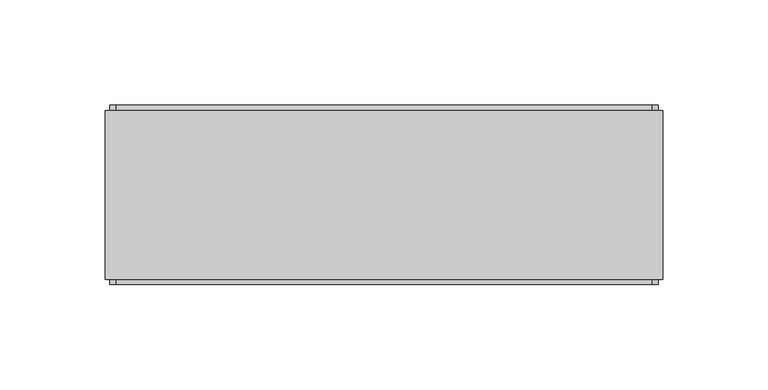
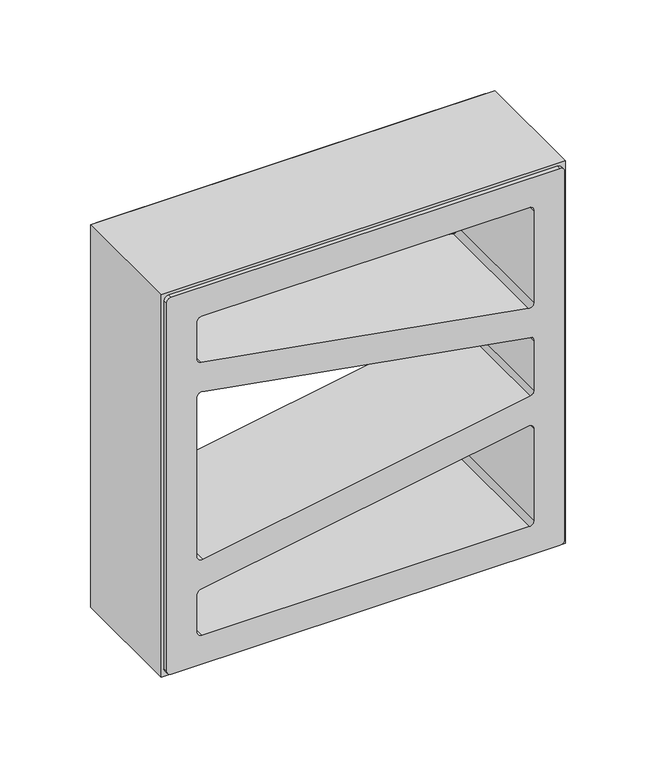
"""IFC4 building model written with IfcOpenShell, lengths in millimetres: proxy geometry, PORTOBELLO - STUDIO CRAFT 3 26X26 (COBOGO) : STUDIO CRAFT 3."""

from ifc_helpers import new_model, si_unit, point, frame, frame_2d, origin, place, context, project, spatial, polyline, circle_curve, trimmed, segment, composite_curve, outline, extrude, source, transform, mapped, element, save


def generic_models_dbe83256(model_context):
    return source(origin(), model_context, "Body", "SweptSolid", [
        extrude(outline(composite_curve([segment(polyline([(262.0, 127.0), (262.0, -127.0)]), True, "CONTINUOUS"), segment(trimmed(circle_curve(frame_2d((259.0, -127.0)), 3.0), [point((262.0, -127.0))], [point((259.0, -130.0))], False, "CARTESIAN"), True, "CONTINUOUS"), segment(polyline([(259.0, -130.0), (5.0, -130.0)]), True, "CONTINUOUS"), segment(trimmed(circle_curve(frame_2d((5.0, -127.0)), 3.0), [point((5.0, -130.0))], [point((2.0, -127.0))], False, "CARTESIAN"), True, "CONTINUOUS"), segment(polyline([(2.0, -127.0), (2.0, 127.0)]), True, "CONTINUOUS"), segment(trimmed(circle_curve(frame_2d((5.0, 127.0)), 3.0), [point((2.0, 127.0))], [point((5.0, 130.0))], False, "CARTESIAN"), True, "CONTINUOUS"), segment(polyline([(5.0, 130.0), (259.0, 130.0)]), True, "CONTINUOUS"), segment(trimmed(circle_curve(frame_2d((259.0, 127.0)), 3.0), [point((259.0, 130.0))], [point((262.0, 127.0))], False, "CARTESIAN"), True, "CONTINUOUS")], self_intersect=False), holes=[composite_curve([segment(polyline([(213.3092346, -110.0), (239.0, -110.0)]), True, "CONTINUOUS"), segment(trimmed(circle_curve(frame_2d((239.0, -107.0)), 3.0), [point((239.0, -110.0))], [point((242.0, -107.0))], True, "CARTESIAN"), True, "CONTINUOUS"), segment(polyline([(242.0, -107.0), (242.0, 107.0)]), True, "CONTINUOUS"), segment(trimmed(circle_curve(frame_2d((239.0, 107.0)), 3.0), [point((242.0, 107.0))], [point((239.0, 110.0))], True, "CARTESIAN"), True, "CONTINUOUS"), segment(polyline([(239.0, 110.0), (175.5752608, 110.0)]), True, "CONTINUOUS"), segment(trimmed(circle_curve(frame_2d((175.5752608, 107.0)), 3.0), [point((175.5752608, 110.0))], [point((172.6208375, 106.4790555))], True, "CARTESIAN"), True, "CONTINUOUS"), segment(polyline([(172.6208375, 106.4790555), (210.3548114, -107.5209445)]), True, "CONTINUOUS"), segment(trimmed(circle_curve(frame_2d((213.3092346, -107.0)), 3.0), [point((210.3548114, -107.5209445))], [point((213.3092346, -110.0))], True, "CARTESIAN"), True, "CONTINUOUS")], self_intersect=False), composite_curve([segment(polyline([(88.4247392, 110.0), (25.0, 110.0)]), True, "CONTINUOUS"), segment(trimmed(circle_curve(frame_2d((25.0, 107.0)), 3.0), [point((25.0, 110.0))], [point((22.0, 107.0))], True, "CARTESIAN"), True, "CONTINUOUS"), segment(polyline([(22.0, 107.0), (22.0, -107.0)]), True, "CONTINUOUS"), segment(trimmed(circle_curve(frame_2d((25.0, -107.0)), 3.0), [point((22.0, -107.0))], [point((25.0, -110.0))], True, "CARTESIAN"), True, "CONTINUOUS"), segment(polyline([(25.0, -110.0), (50.6907654, -110.0)]), True, "CONTINUOUS"), segment(trimmed(circle_curve(frame_2d((50.6907654, -107.0)), 3.0), [point((50.6907654, -110.0))], [point((53.6451886, -107.5209445))], True, "CARTESIAN"), True, "CONTINUOUS"), segment(polyline([(53.6451886, -107.5209445), (91.3791625, 106.4790555)]), True, "CONTINUOUS"), segment(trimmed(circle_curve(frame_2d((88.4247392, 107.0)), 3.0), [point((91.3791625, 106.4790555))], [point((88.4247392, 110.0))], True, "CARTESIAN"), True, "CONTINUOUS")], self_intersect=False), composite_curve([segment(trimmed(circle_curve(frame_2d((77.0918573, -107.0)), 3.0), [point((74.137434, -106.4790555))], [point((77.0918573, -110.0))], True, "CARTESIAN"), True, "CONTINUOUS"), segment(polyline([(77.0918573, -110.0), (186.9081427, -110.0)]), True, "CONTINUOUS"), segment(trimmed(circle_curve(frame_2d((186.9081427, -107.0)), 3.0), [point((186.9081427, -110.0))], [point((189.862566, -106.4790555))], True, "CARTESIAN"), True, "CONTINUOUS"), segment(polyline([(189.862566, -106.4790555), (152.1285921, 107.5209445)]), True, "CONTINUOUS"), segment(trimmed(circle_curve(frame_2d((149.1741689, 107.0)), 3.0), [point((152.1285921, 107.5209445))], [point((149.1741689, 110.0))], True, "CARTESIAN"), True, "CONTINUOUS"), segment(polyline([(149.1741689, 110.0), (114.8258311, 110.0)]), True, "CONTINUOUS"), segment(trimmed(circle_curve(frame_2d((114.8258311, 107.0)), 3.0), [point((114.8258311, 110.0))], [point((111.8714079, 107.5209445))], True, "CARTESIAN"), True, "CONTINUOUS"), segment(polyline([(111.8714079, 107.5209445), (74.137434, -106.4790555)]), True, "CONTINUOUS")], self_intersect=False)]), frame((0.0, -42.5, 0.0), z_axis=(0.0, 1.0, 0.0), x_axis=(0.0, 0.0, 1.0)), (0.0, 0.0, 1.0), 85.0),
        extrude(outline(polyline([(264.0, -132.0), (0.0, -132.0), (0.0, 132.0), (264.0, 132.0), (264.0, -132.0)]), holes=[composite_curve([segment(trimmed(circle_curve(frame_2d((5.0, -127.0)), 3.0), [point((2.0, -127.0))], [point((5.0, -130.0))], True, "CARTESIAN"), True, "CONTINUOUS"), segment(polyline([(5.0, -130.0), (259.0, -130.0)]), True, "CONTINUOUS"), segment(trimmed(circle_curve(frame_2d((259.0, -127.0)), 3.0), [point((259.0, -130.0))], [point((262.0, -127.0))], True, "CARTESIAN"), True, "CONTINUOUS"), segment(polyline([(262.0, -127.0), (262.0, 127.0)]), True, "CONTINUOUS"), segment(trimmed(circle_curve(frame_2d((259.0, 127.0)), 3.0), [point((262.0, 127.0))], [point((259.0, 130.0))], True, "CARTESIAN"), True, "CONTINUOUS"), segment(polyline([(259.0, 130.0), (5.0, 130.0)]), True, "CONTINUOUS"), segment(trimmed(circle_curve(frame_2d((5.0, 127.0)), 3.0), [point((5.0, 130.0))], [point((2.0, 127.0))], True, "CARTESIAN"), True, "CONTINUOUS"), segment(polyline([(2.0, 127.0), (2.0, -127.0)]), True, "CONTINUOUS")], self_intersect=False)]), frame((0.0, -40.0, 0.0), z_axis=(0.0, 1.0, 0.0), x_axis=(0.0, 0.0, 1.0)), (0.0, 0.0, 1.0), 80.0),
    ])


if __name__ == "__main__":
    model = new_model("IFC4")
    model_context = context("Model", 3, world=origin())
    ifc_project = project(units=[si_unit("LENGTHUNIT", "METRE", prefix="MILLI")], contexts=[model_context])
    site = spatial("IfcSite", under=ifc_project)
    building = spatial("IfcBuilding", under=site)
    placement = place(None, origin())
    generic_models_shape = generic_models_dbe83256(model_context)
    element("IfcBuildingElementProxy", 1, Name="PORTOBELLO - STUDIO CRAFT 3 26X26 (COBOGO) : STUDIO CRAFT 3", ObjectType="PORTOBELLO - STUDIO CRAFT 3 26X26 (COBOGO) : STUDIO CRAFT 3", at=placement, inside=building, context=model_context, shape_type="MappedRepresentation", body=[
        mapped(generic_models_shape, transform((0.0, 0.0, 0.0), x_axis=(1.0, 0.0, 0.0), y_axis=(0.0, 1.0, 0.0), z_axis=(0.0, 0.0, 1.0))),
    ])
    save(model, "model.ifc")
